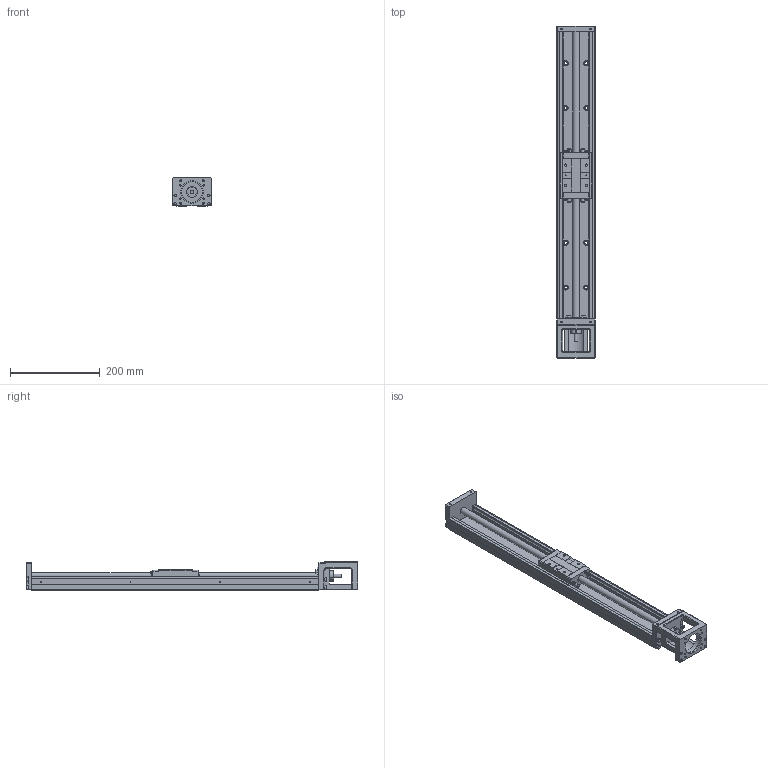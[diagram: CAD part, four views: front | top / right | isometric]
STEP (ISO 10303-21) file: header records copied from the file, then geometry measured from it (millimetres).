
FILE_DESCRIPTION(/* description */ (''),/* implementation_level */ '2;1');
FILE_NAME(/* name */ 'FKL80E640 05(10.16)C7.stp',/* time_stamp */ '2018-12-26T09:46:00+08:00',/* author */ (''),/* organization */ (''),/* preprocessor_version */ 'ST-DEVELOPER v16',/* originating_system */ 'SIEMENS PLM Software NX 10.0',/* authorisation */ '');
FILE_SCHEMA (('AUTOMOTIVE_DESIGN { 1 0 10303 214 3 1 1 1 }'));
Length unit declared in the file: millimetre
Products named in the file (3): 滑块.KK86-A1; 轨道.KK86-640; FKL80E640 05(10.16)C7
Assembly tree (2 placements, depth 2):
  FKL80E640 05(10.16)C7
    轨道.KK86-640
    滑块.KK86-A1
Bounding box: 86 x 740 x 64 mm (x, y, z)
Volume: 1352237.4 mm3; surface area: 294903.9 mm2
Topology: 2 solids, 2 shells, 520 faces, 1329 edges, 872 vertices
Faces by surface type: plane 303, cylinder 171, torus 20, cone 17, sphere 9
Full cylindrical faces by diameter (mm): 2.05 x8, 2.15 x2, 3.3 x9, 4.2 x4, 4.5 x4, 5 x4, 5.5 x4, 6.5 x2, 6.6 x12, 7.5 x8, 8 x5, 8.5 x8, 11 x12, 15 x2, 19 x1, 46 x1, 50 x1
Entity records: 15038 total; most frequent: CARTESIAN_POINT 2633, DIRECTION 2541, ORIENTED_EDGE 2270, EDGE_CURVE 1135, AXIS2_PLACEMENT_3D 908, VERTEX_POINT 791, EDGE_LOOP 734, LINE 725
